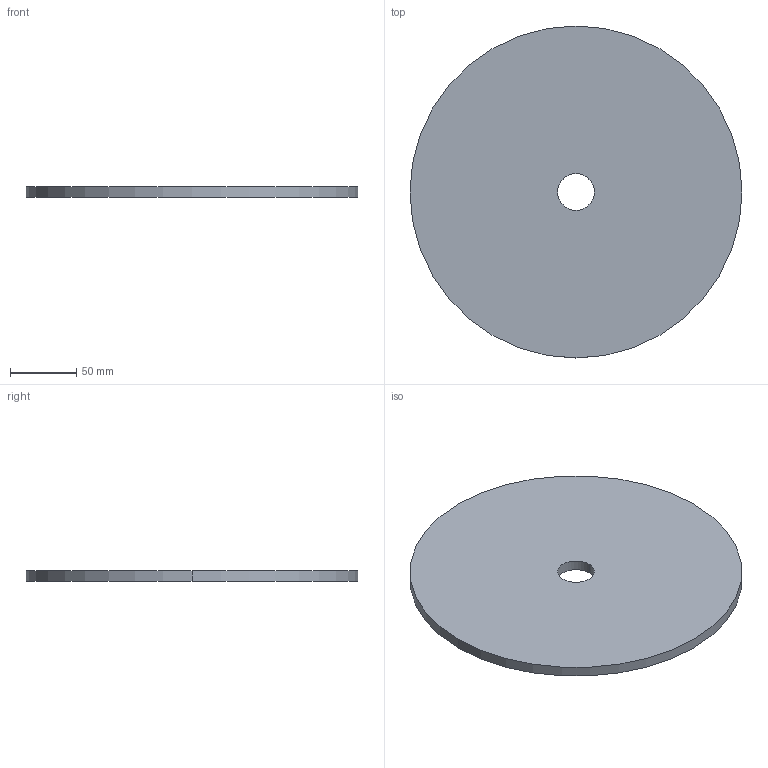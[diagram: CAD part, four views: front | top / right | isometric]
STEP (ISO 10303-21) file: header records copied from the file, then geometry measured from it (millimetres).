
FILE_DESCRIPTION (( 'STEP AP214' ), '1' );
FILE_NAME ('DISCO 25.STEP', '2026-02-11T16:53:52', ( '' ), ( '' ), 'SwSTEP 2.0', 'SolidWorks 2023', '' );
FILE_SCHEMA (( 'AUTOMOTIVE_DESIGN' ));
Length unit declared in the file: millimetre
Products named in the file (1): DISCO 25
Bounding box: 250 x 250 x 8 mm (x, y, z)
Volume: 387850.9 mm3; surface area: 103944.1 mm2
Topology: 1 solids, 1 shells, 6 faces, 12 edges, 8 vertices
Faces by surface type: cylinder 4, plane 2
Entity records: 191 total; most frequent: DIRECTION 34, CARTESIAN_POINT 27, ORIENTED_EDGE 24, AXIS2_PLACEMENT_3D 15, EDGE_CURVE 12, EDGE_LOOP 8, CIRCLE 8, VERTEX_POINT 8
